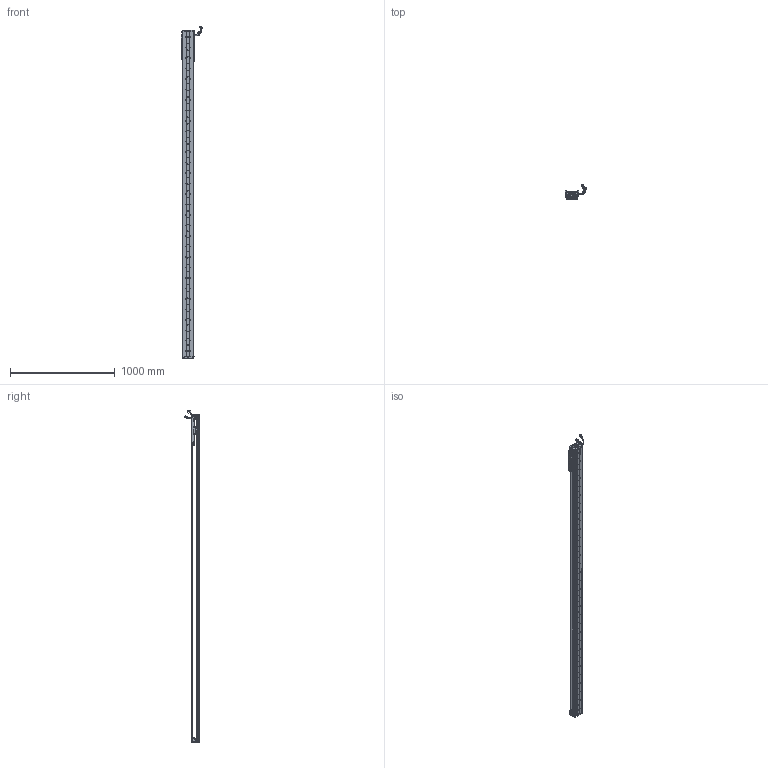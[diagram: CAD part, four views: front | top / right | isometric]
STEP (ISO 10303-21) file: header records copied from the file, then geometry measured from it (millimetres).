
FILE_DESCRIPTION (( 'STEP AP203' ), '1' );
FILE_NAME ('Z3-RY100D-1-L500-B-K.SLDASM_2800.step', '2021-05-17T02:52:59', ( '盈信电脑' ), ( '东莞市道滘镇水果街19号' ), 'SwSTEP 2.0', 'SolidWorks 2016', '' );
FILE_SCHEMA (( 'CONFIG_CONTROL_DESIGN' ));
Length unit declared in the file: millimetre
Products named in the file (36): COVER-Part-1; SCREW-M1.7; SCALE-Part-2; 140蚥薯蝶輸; SCREW-M1.6-2; Z3-RY100D-1-L500-B-K.SLDASM_2800; 覜茼ん672; SCREW-M1.6-3; 140雄赽晤鎢ん堤盄; SEAL; SCREW-M1.6; LABEL-Part-1; HARNESS; SCALE-Part-1; Z-RY100D詩湍奻揤裔; HOLDER0; Z3-RY100D-500-倰第菁釱_2800; SCREW-M1.6-1; Z3-RY100铝滑块（21款）; Z-RY100D詩湍狟揤裔; LABEL; HARNESS-Part-2; SCALE; Z3-RY100-L500詩湍90mm遵_2800; Z-100詩湍傷裔啣; SEAL-Part-1; 080黍杅芛假蚾釱21遴; SHIELDPLATE; 100-Z-臏賑輸盄裔(21遴); PBU_SHEET; HARNESS-Part-1; PSLH080_PSLF2; Z-RY100D覜茼んえ; COVER; 榋妏寠巭燃_暯_M2_2; SCREW-M1.7-1
Assembly tree (43 placements, depth 4):
  Z3-RY100D-1-L500-B-K.SLDASM_2800
    Z3-RY100D-500-倰第菁釱_2800
    Z3-RY100铝滑块（21款）
    PSLH080_PSLF2
      SCALE
        SCALE-Part-1
        SCALE-Part-2
      HARNESS
        HARNESS-Part-1
        HARNESS-Part-2
      LABEL
        LABEL-Part-1
      COVER
        COVER-Part-1
      SEAL
        SEAL-Part-1
      榋妏寠巭燃_暯_M2_2
      SHIELDPLATE
      SCREW-M1.7
      SCREW-M1.7-1
      PBU_SHEET
      SCREW-M1.6
      SCREW-M1.6-1
      SCREW-M1.6-2
      SCREW-M1.6-3
      HOLDER0
    080黍杅芛假蚾釱21遴
    Z-100詩湍傷裔啣  x2
    140蚥薯蝶輸  x2
    覜茼ん672  x3
    Z-RY100D覜茼んえ  x3
    100-Z-臏賑輸盄裔(21遴)
    140雄赽晤鎢ん堤盄
    Z3-RY100-L500詩湍90mm遵_2800
    Z-RY100D詩湍狟揤裔  x2
    Z-RY100D詩湍奻揤裔  x2
Bounding box: 205.79 x 136.11 x 3170.43 mm (x, y, z)
Volume: 5696586.6 mm3; surface area: 2252394.2 mm2
Topology: 38 solids, 38 shells, 3137 faces, 8641 edges, 5528 vertices
Faces by surface type: cylinder 1586, plane 1203, cone 226, torus 69, bspline 53
Entity records: 92195 total; most frequent: CARTESIAN_POINT 19277, DIRECTION 14931, ORIENTED_EDGE 14162, EDGE_CURVE 7081, AXIS2_PLACEMENT_3D 5642, VERTEX_POINT 4596, VECTOR 3647, LINE 3647
